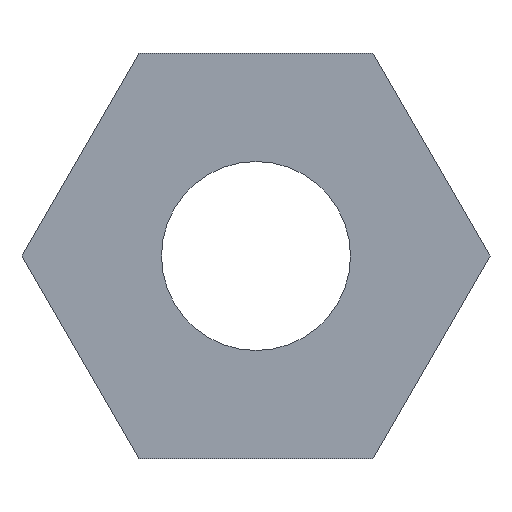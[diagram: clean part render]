
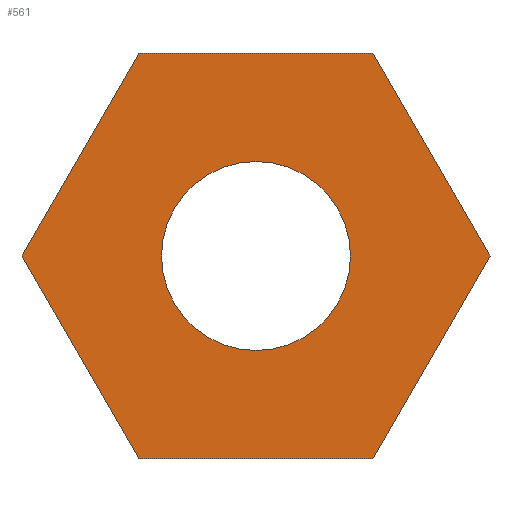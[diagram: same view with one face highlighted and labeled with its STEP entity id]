
A CAD part, left-side view. The second image highlights one B-rep face of the part: STEP entity #561.
In plain terms, the highlighted planar face has unit normal (-1, 0, 0).
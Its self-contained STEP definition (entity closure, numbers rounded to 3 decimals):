
#22 = VERTEX_POINT('',#23);
#23 = CARTESIAN_POINT('',(72.952,2.75,12.));
#32 = PLANE('',#33);
#33 = AXIS2_PLACEMENT_3D('',#34,#35,#36);
#34 = CARTESIAN_POINT('',(72.952,2.75,12.));
#35 = DIRECTION('',(0.,-0.866,-0.5));
#36 = DIRECTION('',(0.,-0.5,0.866));
#44 = PLANE('',#45);
#45 = AXIS2_PLACEMENT_3D('',#46,#47,#48);
#46 = CARTESIAN_POINT('',(72.952,1.375,9.619));
#47 = DIRECTION('',(0.,-0.866,0.5));
#48 = DIRECTION('',(0.,0.5,0.866));
#85 = VERTEX_POINT('',#86);
#86 = CARTESIAN_POINT('',(72.952,1.375,14.381));
#100 = PLANE('',#101);
#101 = AXIS2_PLACEMENT_3D('',#102,#103,#104);
#102 = CARTESIAN_POINT('',(72.952,1.375,14.381));
#103 = DIRECTION('',(0.,0.,-1.));
#104 = DIRECTION('',(0.,-1.,0.));
#112 = EDGE_CURVE('',#22,#85,#113,.T.);
#113 = SURFACE_CURVE('',#114,(#118,#125),.PCURVE_S1.);
#114 = LINE('',#115,#116);
#115 = CARTESIAN_POINT('',(72.952,2.75,12.));
#116 = VECTOR('',#117,1.);
#117 = DIRECTION('',(0.,-0.5,0.866));
#118 = PCURVE('',#32,#119);
#119 = DEFINITIONAL_REPRESENTATION('',(#120),#124);
#120 = LINE('',#121,#122);
#121 = CARTESIAN_POINT('',(0.,0.));
#122 = VECTOR('',#123,1.);
#123 = DIRECTION('',(1.,0.));
#124 = ( GEOMETRIC_REPRESENTATION_CONTEXT(2) 
PARAMETRIC_REPRESENTATION_CONTEXT() REPRESENTATION_CONTEXT('2D SPACE',''
  ) );
#125 = PCURVE('',#126,#131);
#126 = PLANE('',#127);
#127 = AXIS2_PLACEMENT_3D('',#128,#129,#130);
#128 = CARTESIAN_POINT('',(72.952,0.,12.));
#129 = DIRECTION('',(1.,0.,0.));
#130 = DIRECTION('',(-0.,0.,1.));
#131 = DEFINITIONAL_REPRESENTATION('',(#132),#136);
#132 = LINE('',#133,#134);
#133 = CARTESIAN_POINT('',(0.,-2.75));
#134 = VECTOR('',#135,1.);
#135 = DIRECTION('',(0.866,0.5));
#136 = ( GEOMETRIC_REPRESENTATION_CONTEXT(2) 
PARAMETRIC_REPRESENTATION_CONTEXT() REPRESENTATION_CONTEXT('2D SPACE',''
  ) );
#166 = VERTEX_POINT('',#167);
#167 = CARTESIAN_POINT('',(72.952,-1.375,14.381));
#181 = PLANE('',#182);
#182 = AXIS2_PLACEMENT_3D('',#183,#184,#185);
#183 = CARTESIAN_POINT('',(72.952,-1.375,14.381));
#184 = DIRECTION('',(0.,0.866,-0.5));
#185 = DIRECTION('',(0.,-0.5,-0.866));
#193 = EDGE_CURVE('',#85,#166,#194,.T.);
#194 = SURFACE_CURVE('',#195,(#199,#206),.PCURVE_S1.);
#195 = LINE('',#196,#197);
#196 = CARTESIAN_POINT('',(72.952,1.375,14.381));
#197 = VECTOR('',#198,1.);
#198 = DIRECTION('',(0.,-1.,0.));
#199 = PCURVE('',#100,#200);
#200 = DEFINITIONAL_REPRESENTATION('',(#201),#205);
#201 = LINE('',#202,#203);
#202 = CARTESIAN_POINT('',(0.,0.));
#203 = VECTOR('',#204,1.);
#204 = DIRECTION('',(1.,0.));
#205 = ( GEOMETRIC_REPRESENTATION_CONTEXT(2) 
PARAMETRIC_REPRESENTATION_CONTEXT() REPRESENTATION_CONTEXT('2D SPACE',''
  ) );
#206 = PCURVE('',#126,#207);
#207 = DEFINITIONAL_REPRESENTATION('',(#208),#212);
#208 = LINE('',#209,#210);
#209 = CARTESIAN_POINT('',(2.381,-1.375));
#210 = VECTOR('',#211,1.);
#211 = DIRECTION('',(0.,1.));
#212 = ( GEOMETRIC_REPRESENTATION_CONTEXT(2) 
PARAMETRIC_REPRESENTATION_CONTEXT() REPRESENTATION_CONTEXT('2D SPACE',''
  ) );
#242 = VERTEX_POINT('',#243);
#243 = CARTESIAN_POINT('',(72.952,-2.75,12.));
#257 = PLANE('',#258);
#258 = AXIS2_PLACEMENT_3D('',#259,#260,#261);
#259 = CARTESIAN_POINT('',(72.952,-2.75,12.));
#260 = DIRECTION('',(-0.,0.866,0.5));
#261 = DIRECTION('',(0.,0.5,-0.866));
#269 = EDGE_CURVE('',#166,#242,#270,.T.);
#270 = SURFACE_CURVE('',#271,(#275,#282),.PCURVE_S1.);
#271 = LINE('',#272,#273);
#272 = CARTESIAN_POINT('',(72.952,-1.375,14.381));
#273 = VECTOR('',#274,1.);
#274 = DIRECTION('',(0.,-0.5,-0.866));
#275 = PCURVE('',#181,#276);
#276 = DEFINITIONAL_REPRESENTATION('',(#277),#281);
#277 = LINE('',#278,#279);
#278 = CARTESIAN_POINT('',(0.,0.));
#279 = VECTOR('',#280,1.);
#280 = DIRECTION('',(1.,0.));
#281 = ( GEOMETRIC_REPRESENTATION_CONTEXT(2) 
PARAMETRIC_REPRESENTATION_CONTEXT() REPRESENTATION_CONTEXT('2D SPACE',''
  ) );
#282 = PCURVE('',#126,#283);
#283 = DEFINITIONAL_REPRESENTATION('',(#284),#288);
#284 = LINE('',#285,#286);
#285 = CARTESIAN_POINT('',(2.381,1.375));
#286 = VECTOR('',#287,1.);
#287 = DIRECTION('',(-0.866,0.5));
#288 = ( GEOMETRIC_REPRESENTATION_CONTEXT(2) 
PARAMETRIC_REPRESENTATION_CONTEXT() REPRESENTATION_CONTEXT('2D SPACE',''
  ) );
#318 = VERTEX_POINT('',#319);
#319 = CARTESIAN_POINT('',(72.952,-1.375,9.619));
#333 = PLANE('',#334);
#334 = AXIS2_PLACEMENT_3D('',#335,#336,#337);
#335 = CARTESIAN_POINT('',(72.952,-1.375,9.619));
#336 = DIRECTION('',(-0.,0.,1.));
#337 = DIRECTION('',(0.,1.,0.));
#345 = EDGE_CURVE('',#242,#318,#346,.T.);
#346 = SURFACE_CURVE('',#347,(#351,#358),.PCURVE_S1.);
#347 = LINE('',#348,#349);
#348 = CARTESIAN_POINT('',(72.952,-2.75,12.));
#349 = VECTOR('',#350,1.);
#350 = DIRECTION('',(0.,0.5,-0.866));
#351 = PCURVE('',#257,#352);
#352 = DEFINITIONAL_REPRESENTATION('',(#353),#357);
#353 = LINE('',#354,#355);
#354 = CARTESIAN_POINT('',(0.,0.));
#355 = VECTOR('',#356,1.);
#356 = DIRECTION('',(1.,0.));
#357 = ( GEOMETRIC_REPRESENTATION_CONTEXT(2) 
PARAMETRIC_REPRESENTATION_CONTEXT() REPRESENTATION_CONTEXT('2D SPACE',''
  ) );
#358 = PCURVE('',#126,#359);
#359 = DEFINITIONAL_REPRESENTATION('',(#360),#364);
#360 = LINE('',#361,#362);
#361 = CARTESIAN_POINT('',(0.,2.75));
#362 = VECTOR('',#363,1.);
#363 = DIRECTION('',(-0.866,-0.5));
#364 = ( GEOMETRIC_REPRESENTATION_CONTEXT(2) 
PARAMETRIC_REPRESENTATION_CONTEXT() REPRESENTATION_CONTEXT('2D SPACE',''
  ) );
#394 = VERTEX_POINT('',#395);
#395 = CARTESIAN_POINT('',(72.952,1.375,9.619));
#416 = EDGE_CURVE('',#318,#394,#417,.T.);
#417 = SURFACE_CURVE('',#418,(#422,#429),.PCURVE_S1.);
#418 = LINE('',#419,#420);
#419 = CARTESIAN_POINT('',(72.952,-1.375,9.619));
#420 = VECTOR('',#421,1.);
#421 = DIRECTION('',(0.,1.,0.));
#422 = PCURVE('',#333,#423);
#423 = DEFINITIONAL_REPRESENTATION('',(#424),#428);
#424 = LINE('',#425,#426);
#425 = CARTESIAN_POINT('',(0.,0.));
#426 = VECTOR('',#427,1.);
#427 = DIRECTION('',(1.,0.));
#428 = ( GEOMETRIC_REPRESENTATION_CONTEXT(2) 
PARAMETRIC_REPRESENTATION_CONTEXT() REPRESENTATION_CONTEXT('2D SPACE',''
  ) );
#429 = PCURVE('',#126,#430);
#430 = DEFINITIONAL_REPRESENTATION('',(#431),#435);
#431 = LINE('',#432,#433);
#432 = CARTESIAN_POINT('',(-2.381,1.375));
#433 = VECTOR('',#434,1.);
#434 = DIRECTION('',(0.,-1.));
#435 = ( GEOMETRIC_REPRESENTATION_CONTEXT(2) 
PARAMETRIC_REPRESENTATION_CONTEXT() REPRESENTATION_CONTEXT('2D SPACE',''
  ) );
#463 = EDGE_CURVE('',#394,#22,#464,.T.);
#464 = SURFACE_CURVE('',#465,(#469,#476),.PCURVE_S1.);
#465 = LINE('',#466,#467);
#466 = CARTESIAN_POINT('',(72.952,1.375,9.619));
#467 = VECTOR('',#468,1.);
#468 = DIRECTION('',(0.,0.5,0.866));
#469 = PCURVE('',#44,#470);
#470 = DEFINITIONAL_REPRESENTATION('',(#471),#475);
#471 = LINE('',#472,#473);
#472 = CARTESIAN_POINT('',(0.,0.));
#473 = VECTOR('',#474,1.);
#474 = DIRECTION('',(1.,0.));
#475 = ( GEOMETRIC_REPRESENTATION_CONTEXT(2) 
PARAMETRIC_REPRESENTATION_CONTEXT() REPRESENTATION_CONTEXT('2D SPACE',''
  ) );
#476 = PCURVE('',#126,#477);
#477 = DEFINITIONAL_REPRESENTATION('',(#478),#482);
#478 = LINE('',#479,#480);
#479 = CARTESIAN_POINT('',(-2.381,-1.375));
#480 = VECTOR('',#481,1.);
#481 = DIRECTION('',(0.866,-0.5));
#482 = ( GEOMETRIC_REPRESENTATION_CONTEXT(2) 
PARAMETRIC_REPRESENTATION_CONTEXT() REPRESENTATION_CONTEXT('2D SPACE',''
  ) );
#488 = VERTEX_POINT('',#489);
#489 = CARTESIAN_POINT('',(72.952,1.11,12.));
#498 = CYLINDRICAL_SURFACE('',#499,1.11);
#499 = AXIS2_PLACEMENT_3D('',#500,#501,#502);
#500 = CARTESIAN_POINT('',(72.952,0.,12.));
#501 = DIRECTION('',(-1.,-0.,-0.));
#502 = DIRECTION('',(0.,1.,0.));
#540 = EDGE_CURVE('',#488,#488,#541,.T.);
#541 = SURFACE_CURVE('',#542,(#547,#554),.PCURVE_S1.);
#542 = CIRCLE('',#543,1.11);
#543 = AXIS2_PLACEMENT_3D('',#544,#545,#546);
#544 = CARTESIAN_POINT('',(72.952,0.,12.));
#545 = DIRECTION('',(1.,0.,0.));
#546 = DIRECTION('',(0.,1.,0.));
#547 = PCURVE('',#498,#548);
#548 = DEFINITIONAL_REPRESENTATION('',(#549),#553);
#549 = LINE('',#550,#551);
#550 = CARTESIAN_POINT('',(-0.,0.));
#551 = VECTOR('',#552,1.);
#552 = DIRECTION('',(-1.,0.));
#553 = ( GEOMETRIC_REPRESENTATION_CONTEXT(2) 
PARAMETRIC_REPRESENTATION_CONTEXT() REPRESENTATION_CONTEXT('2D SPACE',''
  ) );
#554 = PCURVE('',#126,#555);
#555 = DEFINITIONAL_REPRESENTATION('',(#556),#560);
#556 = CIRCLE('',#557,1.11);
#557 = AXIS2_PLACEMENT_2D('',#558,#559);
#558 = CARTESIAN_POINT('',(0.,0.));
#559 = DIRECTION('',(0.,-1.));
#560 = ( GEOMETRIC_REPRESENTATION_CONTEXT(2) 
PARAMETRIC_REPRESENTATION_CONTEXT() REPRESENTATION_CONTEXT('2D SPACE',''
  ) );
#561 = ADVANCED_FACE('',(#562,#570),#126,.F.);
#562 = FACE_BOUND('',#563,.F.);
#563 = EDGE_LOOP('',(#564,#565,#566,#567,#568,#569));
#564 = ORIENTED_EDGE('',*,*,#112,.T.);
#565 = ORIENTED_EDGE('',*,*,#193,.T.);
#566 = ORIENTED_EDGE('',*,*,#269,.T.);
#567 = ORIENTED_EDGE('',*,*,#345,.T.);
#568 = ORIENTED_EDGE('',*,*,#416,.T.);
#569 = ORIENTED_EDGE('',*,*,#463,.T.);
#570 = FACE_BOUND('',#571,.F.);
#571 = EDGE_LOOP('',(#572));
#572 = ORIENTED_EDGE('',*,*,#540,.F.);
